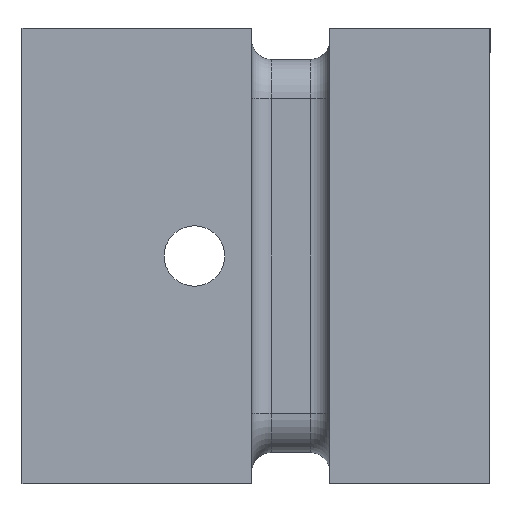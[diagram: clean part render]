
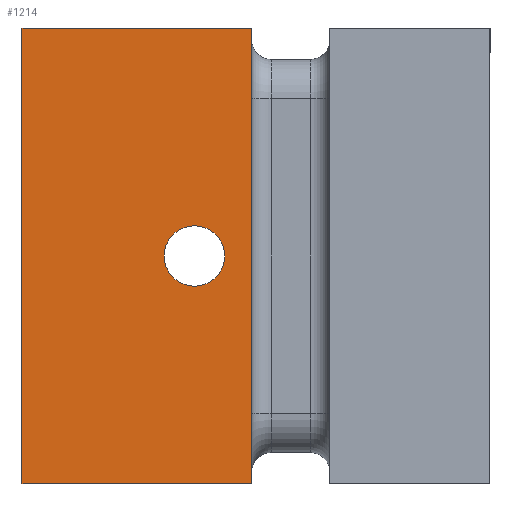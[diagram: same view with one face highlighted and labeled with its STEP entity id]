
A CAD part, front view. The second image highlights one B-rep face of the part: STEP entity #1214.
In plain terms, the highlighted planar face has unit normal (0, -1, 0).
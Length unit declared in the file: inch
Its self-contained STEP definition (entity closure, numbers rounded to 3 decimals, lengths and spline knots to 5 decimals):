
#1 = CARTESIAN_POINT ( 'NONE',  ( -0.19685, 0., -0.09675 ) ) ;
#11 = VECTOR ( 'NONE', #873, 39.37008 ) ;
#24 = VERTEX_POINT ( 'NONE', #1606 ) ;
#100 = VECTOR ( 'NONE', #1649, 39.37008 ) ;
#116 = EDGE_LOOP ( 'NONE', ( #404, #574 ) ) ;
#191 = VECTOR ( 'NONE', #617, 39.37008 ) ;
#208 = ORIENTED_EDGE ( 'NONE', *, *, #605, .F. ) ;
#286 = CARTESIAN_POINT ( 'NONE',  ( -0.01378, 0., -0.72835 ) ) ;
#304 = VERTEX_POINT ( 'NONE', #286 ) ;
#338 = DIRECTION ( 'NONE',  ( 0., -1., 0. ) ) ;
#363 = DIRECTION ( 'NONE',  ( 0., 0., 1. ) ) ;
#371 = VERTEX_POINT ( 'NONE', #1 ) ;
#404 = ORIENTED_EDGE ( 'NONE', *, *, #710, .T. ) ;
#430 = ORIENTED_EDGE ( 'NONE', *, *, #814, .F. ) ;
#494 = EDGE_LOOP ( 'NONE', ( #1466, #430, #208, #1540 ) ) ;
#528 = LINE ( 'NONE', #1442, #1363 ) ;
#553 = DIRECTION ( 'NONE',  ( 0., 0., 1. ) ) ;
#574 = ORIENTED_EDGE ( 'NONE', *, *, #1406, .T. ) ;
#605 = EDGE_CURVE ( 'NONE', #1006, #1732, #528, .T. ) ;
#617 = DIRECTION ( 'NONE',  ( -1., 0., 0. ) ) ;
#637 = AXIS2_PLACEMENT_3D ( 'NONE', #649, #1768, #638 ) ;
#638 = DIRECTION ( 'NONE',  ( 0., 0., 1. ) ) ;
#649 = CARTESIAN_POINT ( 'NONE',  ( -0.19685, 0., 0. ) ) ;
#708 = CARTESIAN_POINT ( 'NONE',  ( -0.01378, 0., -0.72835 ) ) ;
#710 = EDGE_CURVE ( 'NONE', #979, #371, #911, .T. ) ;
#745 = CARTESIAN_POINT ( 'NONE',  ( -0.74803, 0., -0.72835 ) ) ;
#814 = EDGE_CURVE ( 'NONE', #1732, #24, #848, .T. ) ;
#848 = LINE ( 'NONE', #953, #100 ) ;
#872 = PLANE ( 'NONE',  #1292 ) ;
#873 = DIRECTION ( 'NONE',  ( 0., 0., 1. ) ) ;
#911 = CIRCLE ( 'NONE', #637, 0.09675 ) ;
#921 = LINE ( 'NONE', #745, #191 ) ;
#932 = AXIS2_PLACEMENT_3D ( 'NONE', #1095, #1790, #553 ) ;
#953 = CARTESIAN_POINT ( 'NONE',  ( -0.74803, 0., 0.72835 ) ) ;
#971 = CARTESIAN_POINT ( 'NONE',  ( -0.74803, 0., -0.72835 ) ) ;
#979 = VERTEX_POINT ( 'NONE', #1520 ) ;
#1006 = VERTEX_POINT ( 'NONE', #971 ) ;
#1067 = EDGE_CURVE ( 'NONE', #304, #24, #1078, .T. ) ;
#1078 = LINE ( 'NONE', #708, #11 ) ;
#1095 = CARTESIAN_POINT ( 'NONE',  ( -0.19685, 0., 0. ) ) ;
#1099 = CIRCLE ( 'NONE', #932, 0.09675 ) ;
#1214 = ADVANCED_FACE ( 'NONE', ( #1470, #1234 ), #872, .T. ) ;
#1234 = FACE_OUTER_BOUND ( 'NONE', #494, .T. ) ;
#1292 = AXIS2_PLACEMENT_3D ( 'NONE', #1696, #338, #1296 ) ;
#1296 = DIRECTION ( 'NONE',  ( 0., 0., -1. ) ) ;
#1363 = VECTOR ( 'NONE', #363, 39.37008 ) ;
#1406 = EDGE_CURVE ( 'NONE', #371, #979, #1099, .T. ) ;
#1425 = CARTESIAN_POINT ( 'NONE',  ( -0.74803, 0., 0.72835 ) ) ;
#1442 = CARTESIAN_POINT ( 'NONE',  ( -0.74803, 0., 0.72835 ) ) ;
#1466 = ORIENTED_EDGE ( 'NONE', *, *, #1067, .T. ) ;
#1470 = FACE_BOUND ( 'NONE', #116, .T. ) ;
#1520 = CARTESIAN_POINT ( 'NONE',  ( -0.19685, 0., 0.09675 ) ) ;
#1540 = ORIENTED_EDGE ( 'NONE', *, *, #1683, .F. ) ;
#1606 = CARTESIAN_POINT ( 'NONE',  ( -0.01378, 0., 0.72835 ) ) ;
#1649 = DIRECTION ( 'NONE',  ( 1., 0., 0. ) ) ;
#1683 = EDGE_CURVE ( 'NONE', #304, #1006, #921, .T. ) ;
#1696 = CARTESIAN_POINT ( 'NONE',  ( 0., 0., 0. ) ) ;
#1732 = VERTEX_POINT ( 'NONE', #1425 ) ;
#1768 = DIRECTION ( 'NONE',  ( 0., 1., 0. ) ) ;
#1790 = DIRECTION ( 'NONE',  ( 0., 1., 0. ) ) ;
